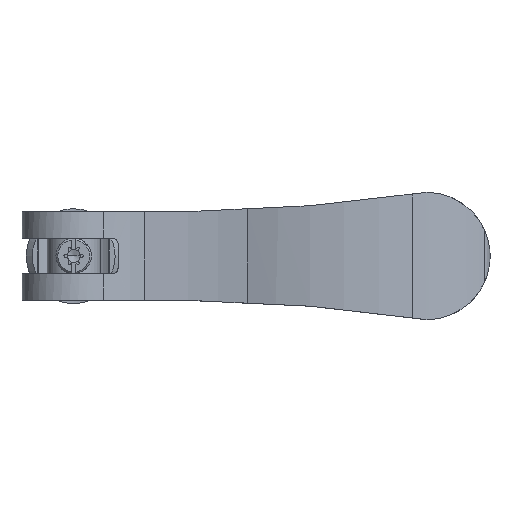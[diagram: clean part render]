
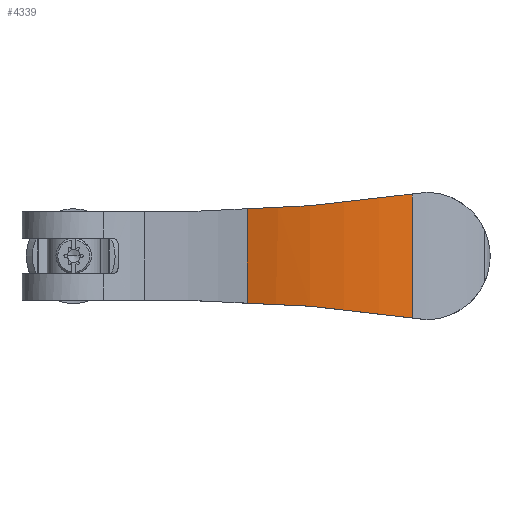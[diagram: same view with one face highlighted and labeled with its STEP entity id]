
A CAD part, top view. The second image highlights one B-rep face of the part: STEP entity #4339.
In plain terms, the highlighted cylindrical face has radius 50.89 mm (diameter 101.78 mm), a partial arc.
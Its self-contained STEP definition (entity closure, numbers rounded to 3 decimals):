
#30 =( BOUNDED_CURVE ( )  B_SPLINE_CURVE ( 3, ( #4304, #4704, #981, #619 ),
 .UNSPECIFIED., .F., .F. ) 
 B_SPLINE_CURVE_WITH_KNOTS ( ( 4, 4 ),
 ( 1.669, 1.883 ),
 .UNSPECIFIED. ) 
 CURVE ( )  GEOMETRIC_REPRESENTATION_ITEM ( )  RATIONAL_B_SPLINE_CURVE ( ( 1., 0.996, 0.996, 1. ) ) 
 REPRESENTATION_ITEM ( '' )  );
#228 = EDGE_CURVE ( 'NONE', #4194, #286, #3036, .T. ) ;
#286 = VERTEX_POINT ( 'NONE', #2006 ) ;
#296 = CYLINDRICAL_SURFACE ( 'NONE', #3733, 50.89 ) ;
#377 = ORIENTED_EDGE ( 'NONE', *, *, #2327, .T. ) ;
#399 = ORIENTED_EDGE ( 'NONE', *, *, #3028, .T. ) ;
#619 = CARTESIAN_POINT ( 'NONE',  ( 29.355, 3.725, -7.986 ) ) ;
#671 = EDGE_CURVE ( 'NONE', #286, #3692, #3192, .T. ) ;
#928 = VECTOR ( 'NONE', #1563, 1000. ) ;
#981 = CARTESIAN_POINT ( 'NONE',  ( 32.817, 4.844, -8.153 ) ) ;
#1005 = DIRECTION ( 'NONE',  ( 0., 0., -1. ) ) ;
#1019 = CARTESIAN_POINT ( 'NONE',  ( 57.234, 4.698, 10.482 ) ) ;
#1067 = CARTESIAN_POINT ( 'NONE',  ( 47.95, 6.11, 9.414 ) ) ;
#1302 = ORIENTED_EDGE ( 'NONE', *, *, #2101, .T. ) ;
#1325 = CARTESIAN_POINT ( 'NONE',  ( 29.355, 3.725, 10.75 ) ) ;
#1414 = CARTESIAN_POINT ( 'NONE',  ( 40., 5.944, 8.5 ) ) ;
#1518 = B_SPLINE_CURVE_WITH_KNOTS ( 'NONE', 3,
 ( #1787, #3254, #2910, #4384, #2548, #1414 ),
 .UNSPECIFIED., .F., .F.,
 ( 4, 2, 4 ),
 ( 0., 0.5, 1. ),
 .UNSPECIFIED. ) ;
#1519 = CARTESIAN_POINT ( 'NONE',  ( 29.355, 3.725, -7.986 ) ) ;
#1552 = CARTESIAN_POINT ( 'NONE',  ( 41.44, 6.086, 8.666 ) ) ;
#1563 = DIRECTION ( 'NONE',  ( 0., 0., -1. ) ) ;
#1586 = EDGE_LOOP ( 'NONE', ( #3667, #2610, #4093, #1302, #377, #399 ) ) ;
#1787 = CARTESIAN_POINT ( 'NONE',  ( 29.355, 3.725, 7.986 ) ) ;
#1957 = CARTESIAN_POINT ( 'NONE',  ( 57.234, 4.698, 10.75 ) ) ;
#2006 = CARTESIAN_POINT ( 'NONE',  ( 57.234, 4.698, -10.482 ) ) ;
#2068 = CARTESIAN_POINT ( 'NONE',  ( 45.788, 6.515, -9.166 ) ) ;
#2101 = EDGE_CURVE ( 'NONE', #3692, #3524, #30, .T. ) ;
#2327 = EDGE_CURVE ( 'NONE', #3524, #3401, #2408, .T. ) ;
#2390 = DIRECTION ( 'NONE',  ( 0., 0., 1. ) ) ;
#2408 = LINE ( 'NONE', #1325, #2503 ) ;
#2421 = CARTESIAN_POINT ( 'NONE',  ( 57.234, 4.698, -10.482 ) ) ;
#2494 = DIRECTION ( 'NONE',  ( -1., 0., 0. ) ) ;
#2503 = VECTOR ( 'NONE', #2390, 1000. ) ;
#2548 = CARTESIAN_POINT ( 'NONE',  ( 37.883, 5.735, 8.398 ) ) ;
#2551 = CARTESIAN_POINT ( 'NONE',  ( 54.42, 5.395, 10.158 ) ) ;
#2610 = ORIENTED_EDGE ( 'NONE', *, *, #228, .T. ) ;
#2910 = CARTESIAN_POINT ( 'NONE',  ( 32.387, 4.636, 8.133 ) ) ;
#3023 = CARTESIAN_POINT ( 'NONE',  ( 47.226, 6.146, 9.33 ) ) ;
#3028 = EDGE_CURVE ( 'NONE', #3401, #3635, #1518, .T. ) ;
#3036 = LINE ( 'NONE', #1957, #928 ) ;
#3192 =( BOUNDED_CURVE ( )  B_SPLINE_CURVE ( 3, ( #2421, #4650, #2068, #4553 ),
 .UNSPECIFIED., .F., .F. ) 
 B_SPLINE_CURVE_WITH_KNOTS ( ( 4, 4 ),
 ( 1.328, 1.669 ),
 .UNSPECIFIED. ) 
 CURVE ( )  GEOMETRIC_REPRESENTATION_ITEM ( )  RATIONAL_B_SPLINE_CURVE ( ( 1., 0.99, 0.99, 1. ) ) 
 REPRESENTATION_ITEM ( '' )  );
#3215 = CARTESIAN_POINT ( 'NONE',  ( 40., 5.944, -8.5 ) ) ;
#3254 = CARTESIAN_POINT ( 'NONE',  ( 30.786, 4.188, 8.056 ) ) ;
#3382 = CARTESIAN_POINT ( 'NONE',  ( 40., 5.944, 8.5 ) ) ;
#3401 = VERTEX_POINT ( 'NONE', #4746 ) ;
#3426 = B_SPLINE_CURVE_WITH_KNOTS ( 'NONE', 3,
 ( #3382, #1552, #4005, #4366, #4386, #3023, #1067, #4337, #2551, #1019 ),
 .UNSPECIFIED., .F., .F.,
 ( 4, 2, 2, 2, 4 ),
 ( 0., 0.25, 0.375, 0.5, 1. ),
 .UNSPECIFIED. ) ;
#3524 = VERTEX_POINT ( 'NONE', #1519 ) ;
#3635 = VERTEX_POINT ( 'NONE', #4487 ) ;
#3667 = ORIENTED_EDGE ( 'NONE', *, *, #4126, .T. ) ;
#3692 = VERTEX_POINT ( 'NONE', #3215 ) ;
#3733 = AXIS2_PLACEMENT_3D ( 'NONE', #3999, #1005, #2494 ) ;
#3817 = CARTESIAN_POINT ( 'NONE',  ( 57.234, 4.698, 10.482 ) ) ;
#3916 = FACE_OUTER_BOUND ( 'NONE', #1586, .T. ) ;
#3999 = CARTESIAN_POINT ( 'NONE',  ( 45., -44.7, 10.75 ) ) ;
#4005 = CARTESIAN_POINT ( 'NONE',  ( 42.886, 6.167, 8.832 ) ) ;
#4093 = ORIENTED_EDGE ( 'NONE', *, *, #671, .T. ) ;
#4126 = EDGE_CURVE ( 'NONE', #3635, #4194, #3426, .T. ) ;
#4194 = VERTEX_POINT ( 'NONE', #3817 ) ;
#4304 = CARTESIAN_POINT ( 'NONE',  ( 40., 5.944, -8.5 ) ) ;
#4337 = CARTESIAN_POINT ( 'NONE',  ( 51.551, 5.849, 9.83 ) ) ;
#4339 = ADVANCED_FACE ( 'NONE', ( #3916 ), #296, .T. ) ;
#4366 = CARTESIAN_POINT ( 'NONE',  ( 45.056, 6.195, 9.081 ) ) ;
#4384 = CARTESIAN_POINT ( 'NONE',  ( 35.936, 5.409, 8.304 ) ) ;
#4386 = CARTESIAN_POINT ( 'NONE',  ( 45.78, 6.189, 9.164 ) ) ;
#4487 = CARTESIAN_POINT ( 'NONE',  ( 40., 5.944, 8.5 ) ) ;
#4553 = CARTESIAN_POINT ( 'NONE',  ( 40., 5.944, -8.5 ) ) ;
#4650 = CARTESIAN_POINT ( 'NONE',  ( 51.589, 6.096, -9.833 ) ) ;
#4704 = CARTESIAN_POINT ( 'NONE',  ( 36.379, 5.586, -8.325 ) ) ;
#4746 = CARTESIAN_POINT ( 'NONE',  ( 29.355, 3.725, 7.986 ) ) ;
